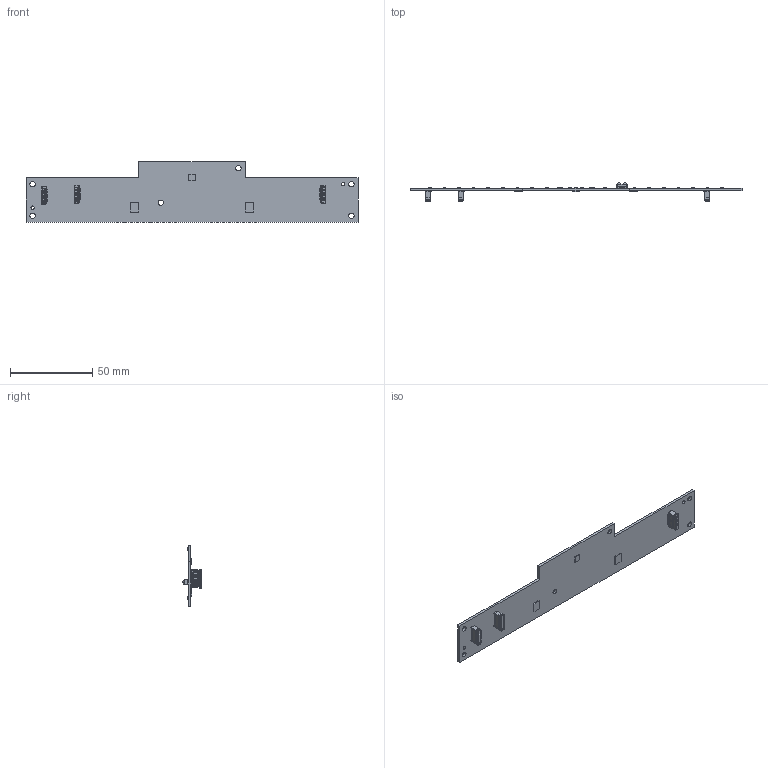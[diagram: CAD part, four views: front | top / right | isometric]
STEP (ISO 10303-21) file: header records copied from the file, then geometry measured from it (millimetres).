
FILE_DESCRIPTION((''),'2;1');
FILE_NAME('LED_PCB_ASSY_ASM','2020-08-21T',('G6003023'),(''),'PRO/ENGINEER BY PARAMETRIC TECHNOLOGY CORPORATION, 2013150','PRO/ENGINEER BY PARAMETRIC TECHNOLOGY CORPORATION, 2013150','');
FILE_SCHEMA(('CONFIG_CONTROL_DESIGN'));
Length unit declared in the file: millimetre
Products named in the file (9): LED_PCB; LED_EVERLIGHT_R6GHY5C_1_1_1; LP5024-DRIVER-IC; LP5036-DRIVER-IC; HS6108E-8PIN-VERTICAL; IR_RECEIVER; CONNECTOR_PLUG-8PIN-2; S-87214-0800; LED_PCB_ASSY_ASM
Assembly tree (40 placements, depth 2):
  LED_PCB_ASSY_ASM
    LED_PCB
    LED_EVERLIGHT_R6GHY5C_1_1_1  x26
    LP5024-DRIVER-IC
    LP5036-DRIVER-IC  x2
    HS6108E-8PIN-VERTICAL  x3
    IR_RECEIVER
    CONNECTOR_PLUG-8PIN-2  x3
    S-87214-0800  x3
Bounding box: 202 x 11.12 x 37 mm (x, y, z)
Volume: 10539 mm3; surface area: 15991.2 mm2
Topology: 40 solids, 64 shells, 4017 faces, 11389 edges, 7523 vertices
Faces by surface type: plane 3262, cylinder 733, sphere 22
Entity records: 39858 total; most frequent: CARTESIAN_POINT 7082, ORIENTED_EDGE 6934, DIRECTION 6471, EDGE_CURVE 3467, VECTOR 3031, LINE 3031, VERTEX_POINT 2273, AXIS2_PLACEMENT_3D 1720
